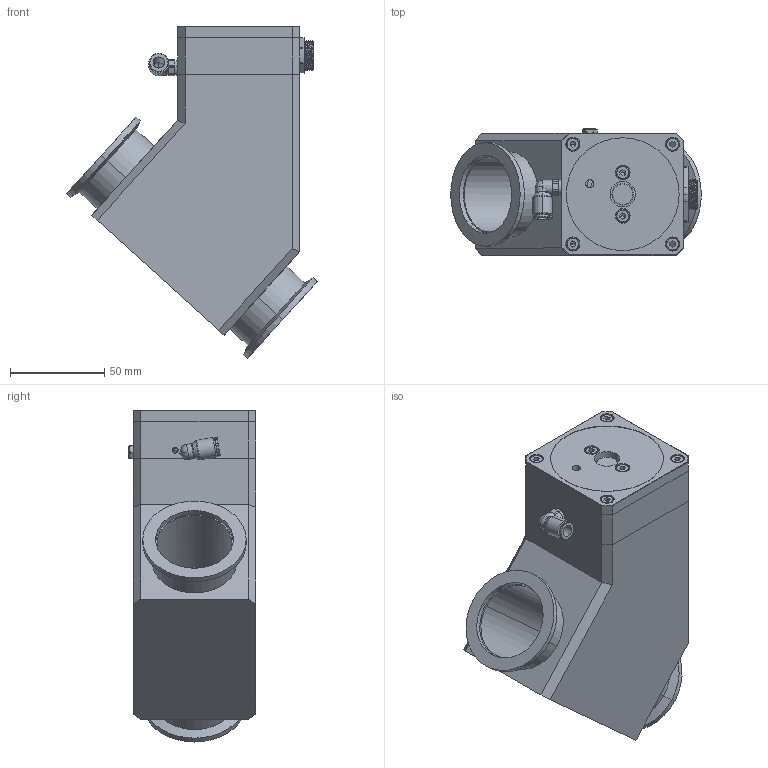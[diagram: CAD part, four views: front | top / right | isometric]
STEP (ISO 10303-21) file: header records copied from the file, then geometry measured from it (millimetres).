
FILE_DESCRIPTION (( 'STEP AP203' ), '1' );
FILE_NAME ('KF40眻盄概.STEP', '2021-12-21T14:35:22', ( '' ), ( '' ), 'SwSTEP 2.0', 'SolidWorks 2016', '' );
FILE_SCHEMA (( 'CONFIG_CONTROL_DESIGN' ));
Length unit declared in the file: millimetre
Products named in the file (1): KF40眻盄概
Bounding box: 133.25 x 67.65 x 176.52 mm (x, y, z)
Surface area: 75607.6 mm2 (no closed solid volume)
Topology: 0 solids, 35 shells, 338 faces, 943 edges, 622 vertices
Faces by surface type: plane 133, cylinder 113, cone 47, torus 38, bspline 5, sphere 2
Entity records: 12552 total; most frequent: CARTESIAN_POINT 3937, DIRECTION 1900, ORIENTED_EDGE 1531, EDGE_CURVE 922, AXIS2_PLACEMENT_3D 728, VERTEX_POINT 622, LINE 444, VECTOR 444
